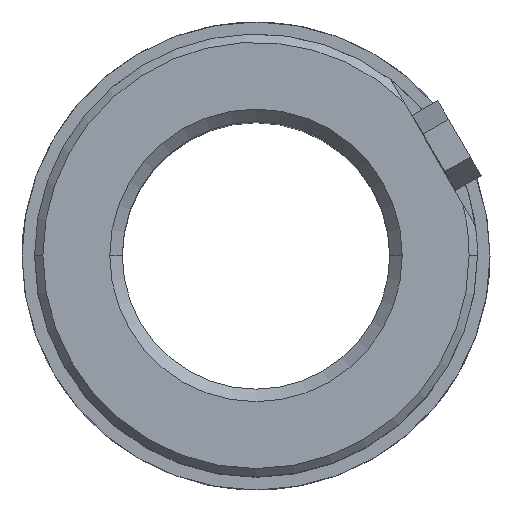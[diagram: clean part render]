
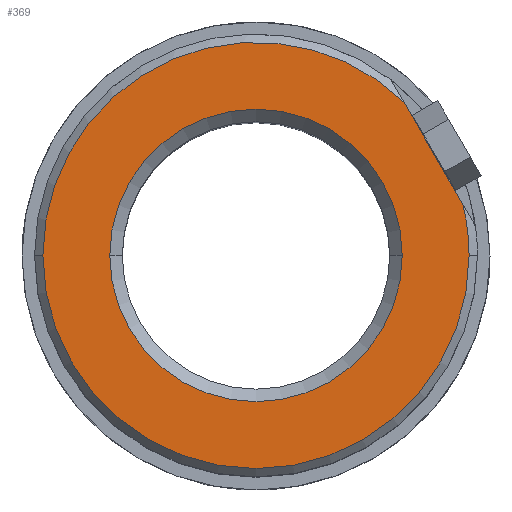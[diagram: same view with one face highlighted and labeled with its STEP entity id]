
A CAD part, top view. The second image highlights one B-rep face of the part: STEP entity #369.
In plain terms, the highlighted planar face has unit normal (0, 0, 1).
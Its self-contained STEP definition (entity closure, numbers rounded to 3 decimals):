
#242=CARTESIAN_POINT('Axis2P3D Location',(0.,0.,45.)) ;
#246=CARTESIAN_POINT('Vertex',(17.5,0.,45.)) ;
#248=CARTESIAN_POINT('Vertex',(-17.5,0.,45.)) ;
#321=CARTESIAN_POINT('Axis2P3D Location',(17.5,0.,45.)) ;
#326=CARTESIAN_POINT('Line Origine',(21.218,12.25,45.)) ;
#330=CARTESIAN_POINT('Vertex',(24.753,6.126,45.)) ;
#332=CARTESIAN_POINT('Vertex',(17.682,18.374,45.)) ;
#335=CARTESIAN_POINT('Axis2P3D Location',(0.,0.,45.)) ;
#339=CARTESIAN_POINT('Vertex',(-25.5,0.,45.)) ;
#342=CARTESIAN_POINT('Axis2P3D Location',(0.,0.,45.)) ;
#346=CARTESIAN_POINT('Vertex',(25.5,0.,45.)) ;
#349=CARTESIAN_POINT('Axis2P3D Location',(0.,0.,45.)) ;
#360=CARTESIAN_POINT('Axis2P3D Location',(0.,0.,45.)) ;
#243=DIRECTION('Axis2P3D Direction',(0.,-0.,1.)) ;
#322=DIRECTION('Axis2P3D Direction',(0.,-0.,1.)) ;
#323=DIRECTION('Axis2P3D XDirection',(1.,0.,0.)) ;
#327=DIRECTION('Vector Direction',(-0.5,0.866,0.)) ;
#336=DIRECTION('Axis2P3D Direction',(0.,-0.,1.)) ;
#343=DIRECTION('Axis2P3D Direction',(0.,-0.,1.)) ;
#350=DIRECTION('Axis2P3D Direction',(0.,-0.,1.)) ;
#361=DIRECTION('Axis2P3D Direction',(0.,-0.,1.)) ;
#244=AXIS2_PLACEMENT_3D('Circle Axis2P3D',#242,#243,$) ;
#324=AXIS2_PLACEMENT_3D('Plane Axis2P3D',#321,#322,#323) ;
#337=AXIS2_PLACEMENT_3D('Circle Axis2P3D',#335,#336,$) ;
#344=AXIS2_PLACEMENT_3D('Circle Axis2P3D',#342,#343,$) ;
#351=AXIS2_PLACEMENT_3D('Circle Axis2P3D',#349,#350,$) ;
#362=AXIS2_PLACEMENT_3D('Circle Axis2P3D',#360,#361,$) ;
#355=ORIENTED_EDGE('',*,*,#334,.T.) ;
#356=ORIENTED_EDGE('',*,*,#341,.T.) ;
#357=ORIENTED_EDGE('',*,*,#348,.T.) ;
#358=ORIENTED_EDGE('',*,*,#353,.T.) ;
#366=ORIENTED_EDGE('',*,*,#364,.F.) ;
#367=ORIENTED_EDGE('',*,*,#250,.F.) ;
#368=FACE_BOUND('',#365,.T.) ;
#328=VECTOR('Line Direction',#327,1.) ;
#369=ADVANCED_FACE('741-32',(#359,#368),#325,.T.) ;
#245=CIRCLE('generated circle',#244,17.5) ;
#338=CIRCLE('generated circle',#337,25.5) ;
#345=CIRCLE('generated circle',#344,25.5) ;
#352=CIRCLE('generated circle',#351,25.5) ;
#363=CIRCLE('generated circle',#362,17.5) ;
#250=EDGE_CURVE('',#247,#249,#245,.T.) ;
#334=EDGE_CURVE('',#331,#333,#329,.T.) ;
#341=EDGE_CURVE('',#333,#340,#338,.T.) ;
#348=EDGE_CURVE('',#340,#347,#345,.T.) ;
#353=EDGE_CURVE('',#347,#331,#352,.T.) ;
#364=EDGE_CURVE('',#249,#247,#363,.T.) ;
#354=EDGE_LOOP('',(#355,#356,#357,#358)) ;
#365=EDGE_LOOP('',(#366,#367)) ;
#359=FACE_OUTER_BOUND('',#354,.T.) ;
#329=LINE('Line',#326,#328) ;
#325=PLANE('Plane',#324) ;
#247=VERTEX_POINT('',#246) ;
#249=VERTEX_POINT('',#248) ;
#331=VERTEX_POINT('',#330) ;
#333=VERTEX_POINT('',#332) ;
#340=VERTEX_POINT('',#339) ;
#347=VERTEX_POINT('',#346) ;
